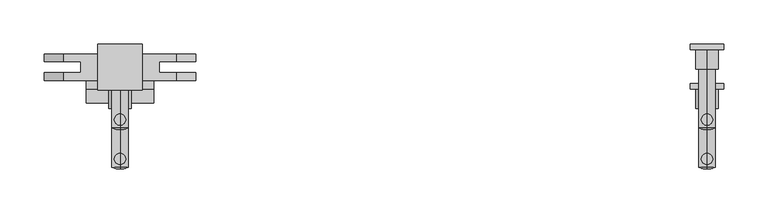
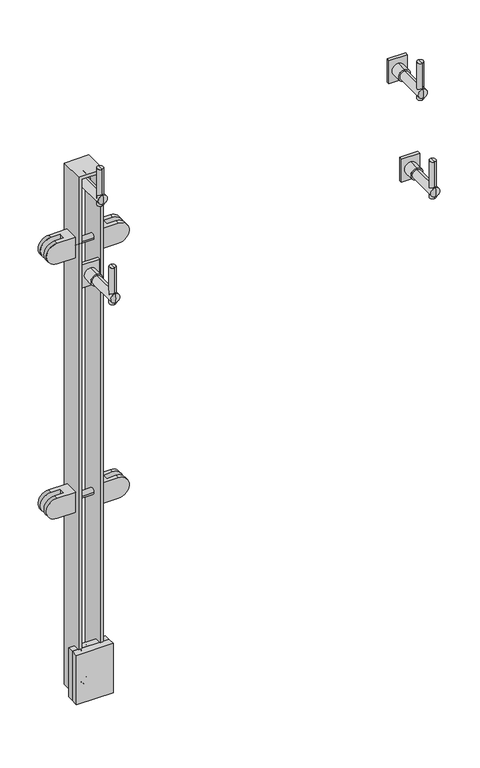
"""IFC4 building model written with IfcOpenShell, lengths in millimetres: proxy geometry, LIVERS_ICN - Glass Panel : LIVERS_ICN - Glass Panel."""

from ifc_helpers import new_model, si_unit, point, frame, origin, place, context, project, spatial, polyline, circle_curve, ellipse_curve, trimmed, outline, extrude, faceted_brep, source, transform, mapped, element, save
from ifc_brep_helpers import plane_surface, cylinder_surface, revolved_surface, advanced_brep


def building_element_proxy_f1ad55b6(model_context):
    return source(origin(), model_context, "Body", "SolidModel", [
        advanced_brep(
        [(258.8575154, 60.3249609, 991.2180522), (258.8575154, 60.3249609, 978.5180522), (258.8575154, 60.3249609, 965.8180522), (258.8575154, 38.0999609, 991.2180522), (258.8575154, 38.0999609, 965.8180522), (258.8575154, 38.0999609, 978.5180522)],
        [
            (0, 1),
            (1, 2),
            (2, 0, circle_curve(frame((258.8575154, 60.3249609, 978.5180522), z_axis=(0.0, 1.0, 0.0), x_axis=(0.0, 0.0, -1.0)), 12.7)),
            (0, 2, circle_curve(frame((258.8575154, 60.3249609, 978.5180522), z_axis=(0.0, 1.0, 0.0), x_axis=(0.0, 0.0, -1.0)), 12.7)),
            (3, 0),
            (2, 4),
            (4, 3, circle_curve(frame((258.8575154, 38.0999609, 978.5180522), z_axis=(0.0, 1.0, 0.0), x_axis=(0.0, 0.0, -1.0)), 12.7)),
            (3, 4, circle_curve(frame((258.8575154, 38.0999609, 978.5180522), z_axis=(0.0, 1.0, 0.0), x_axis=(0.0, 0.0, -1.0)), 12.7)),
            (5, 3),
            (4, 5),
        ],
        [
            plane_surface(frame((258.8575154, 60.3249609, 978.5180522), z_axis=(0.0, 1.0, 0.0), x_axis=(0.0, 0.0, -1.0))),
            cylinder_surface(frame((258.8575154, 69.3828283, 978.5180522), z_axis=(0.0, -1.0, 0.0), x_axis=(0.0, 0.0, -1.0)), 12.7),
            plane_surface(frame((258.8575154, 38.0999609, 978.5180522), z_axis=(0.0, -1.0, 0.0), x_axis=(0.0, 0.0, -1.0))),
        ],
        [
            (0, [[1, 2, 3]]),
            (0, [[-2, -1, 4]]),
            (1, [[5, -3, 6, 7]]),
            (1, [[-6, -4, -5, 8]]),
            (2, [[9, -7, 10]]),
            (2, [[-10, -8, -9]]),
        ],
    ),
        advanced_brep(
        [(258.8575154, -25.4004131, 1043.1838845), (258.8575154, -19.0504161, 1043.1838845), (258.8575154, -12.7004191, 1043.1838845), (258.8575154, -25.4004131, 962.7878163), (258.8575154, -12.7004191, 962.7878163), (258.8575154, -19.0504161, 962.7878163)],
        [
            (0, 1),
            (1, 2),
            (2, 0, circle_curve(frame((258.8575154, -19.0504161, 1043.1838845), z_axis=(0.0, 0.0, 1.0), x_axis=(0.0, 1.0, 0.0)), 6.349997)),
            (0, 2, circle_curve(frame((258.8575154, -19.0504161, 1043.1838845), z_axis=(0.0, 0.0, 1.0), x_axis=(0.0, 1.0, 0.0)), 6.349997)),
            (3, 0),
            (2, 4),
            (4, 3, circle_curve(frame((258.8575154, -19.0504161, 962.7878163), z_axis=(0.0, 0.0, 1.0), x_axis=(0.0, 1.0, 0.0)), 6.349997)),
            (3, 4, circle_curve(frame((258.8575154, -19.0504161, 962.7878163), z_axis=(0.0, 0.0, 1.0), x_axis=(0.0, 1.0, 0.0)), 6.349997)),
            (5, 3),
            (4, 5),
        ],
        [
            plane_surface(frame((258.8575154, -19.0504161, 1043.1838845), z_axis=(0.0, 0.0, 1.0), x_axis=(0.0, 1.0, 0.0))),
            cylinder_surface(frame((258.8575154, -19.0504161, 1057.0348914), z_axis=(0.0, 0.0, -1.0), x_axis=(0.0, 1.0, 0.0)), 6.349997),
            plane_surface(frame((258.8575154, -19.0504161, 962.7878163), z_axis=(0.0, 0.0, -1.0), x_axis=(0.0, 1.0, 0.0))),
        ],
        [
            (0, [[1, 2, 3]]),
            (0, [[-2, -1, 4]]),
            (1, [[5, -3, 6, 7]]),
            (1, [[-6, -4, -5, 8]]),
            (2, [[9, -7, 10]]),
            (2, [[-10, -8, -9]]),
        ],
    ),
        advanced_brep(
        [(258.8575154, -30.1375464, 978.5180522), (258.8575154, -28.5500464, 988.0430522), (258.8575154, -28.5500464, 968.9930522), (258.8575154, 38.0999609, 988.0430522), (258.8575154, 38.0999609, 978.5180522), (258.8575154, 38.0999609, 968.9930522)],
        [
            (0, 1, circle_curve(frame((258.8575154, -0.7687964, 978.5180522), z_axis=(-1.0, 0.0, 0.0), x_axis=(0.0, 1.0, 0.0)), 29.36875)),
            (1, 2, circle_curve(frame((258.8575154, -28.5500464, 978.5180522), z_axis=(0.0, -1.0, 0.0), x_axis=(0.0, 0.0, -1.0)), 9.525)),
            (2, 0, circle_curve(frame((258.8575154, -0.7687964, 978.5180522), z_axis=(-1.0, 0.0, 0.0), x_axis=(0.0, 1.0, 0.0)), 29.36875)),
            (2, 1, circle_curve(frame((258.8575154, -28.5500464, 978.5180522), z_axis=(0.0, -1.0, 0.0), x_axis=(0.0, 0.0, -1.0)), 9.525)),
            (3, 4),
            (4, 5),
            (5, 3, circle_curve(frame((258.8575154, 38.0999609, 978.5180522), z_axis=(0.0, 1.0, 0.0), x_axis=(0.0, 0.0, -1.0)), 9.525)),
            (3, 5, circle_curve(frame((258.8575154, 38.0999609, 978.5180522), z_axis=(0.0, 1.0, 0.0), x_axis=(0.0, 0.0, -1.0)), 9.525)),
            (1, 3),
            (5, 2),
        ],
        [
            revolved_surface(trimmed(ellipse_curve(frame((258.8575154, -0.7687964, 978.5180522), z_axis=(-1.0, 0.0, 0.0), x_axis=(0.0, 1.0, 0.0)), 29.36875, 29.36875), [point((258.8575154, -28.5500464, 968.9930522))], [point((258.8575154, -30.1375464, 978.5180522))], True, "CARTESIAN"), (258.8575154, 30.3031204, 978.5180522), (0.0, -1.0, 0.0)),
            plane_surface(frame((258.8575154, 38.0999609, 978.5180522), z_axis=(0.0, 1.0, 0.0), x_axis=(0.0, 0.0, -1.0))),
            cylinder_surface(frame((258.8575154, 30.3031204, 978.5180522), z_axis=(0.0, -1.0, 0.0), x_axis=(0.0, 0.0, -1.0)), 9.525),
        ],
        [
            (0, [[1, 2, 3]]),
            (0, [[-3, 4, -1]]),
            (1, [[5, 6, 7]]),
            (1, [[-6, -5, 8]]),
            (2, [[9, -7, 10, -2]]),
            (2, [[-10, -8, -9, -4]]),
        ],
    ),
        extrude(outline(polyline([(277.9075154, 66.6749609), (277.9075154, 60.3249609), (239.8075154, 60.3249609), (239.8075154, 66.6749609), (277.9075154, 66.6749609)])), frame((0.0, 0.0, 953.1180522), z_axis=(0.0, 0.0, 1.0), x_axis=(1.0, 0.0, 0.0)), (0.0, 0.0, 1.0), 50.8),
        advanced_brep(
        [(922.9541718, 60.3249609, 991.2180522), (922.9541718, 60.3249609, 978.5180522), (922.9541718, 60.3249609, 965.8180522), (922.9541718, 38.0999609, 991.2180522), (922.9541718, 38.0999609, 965.8180522), (922.9541718, 38.0999609, 978.5180522)],
        [
            (0, 1),
            (1, 2),
            (2, 0, circle_curve(frame((922.9541718, 60.3249609, 978.5180522), z_axis=(0.0, 1.0, 0.0), x_axis=(0.0, 0.0, -1.0)), 12.7)),
            (0, 2, circle_curve(frame((922.9541718, 60.3249609, 978.5180522), z_axis=(0.0, 1.0, 0.0), x_axis=(0.0, 0.0, -1.0)), 12.7)),
            (3, 0),
            (2, 4),
            (4, 3, circle_curve(frame((922.9541718, 38.0999609, 978.5180522), z_axis=(0.0, 1.0, 0.0), x_axis=(0.0, 0.0, -1.0)), 12.7)),
            (3, 4, circle_curve(frame((922.9541718, 38.0999609, 978.5180522), z_axis=(0.0, 1.0, 0.0), x_axis=(0.0, 0.0, -1.0)), 12.7)),
            (5, 3),
            (4, 5),
        ],
        [
            plane_surface(frame((922.9541718, 60.3249609, 978.5180522), z_axis=(0.0, 1.0, 0.0), x_axis=(0.0, 0.0, -1.0))),
            cylinder_surface(frame((922.9541718, 69.3828283, 978.5180522), z_axis=(0.0, -1.0, 0.0), x_axis=(0.0, 0.0, -1.0)), 12.7),
            plane_surface(frame((922.9541718, 38.0999609, 978.5180522), z_axis=(0.0, -1.0, 0.0), x_axis=(0.0, 0.0, -1.0))),
        ],
        [
            (0, [[1, 2, 3]]),
            (0, [[-2, -1, 4]]),
            (1, [[5, -3, 6, 7]]),
            (1, [[-6, -4, -5, 8]]),
            (2, [[9, -7, 10]]),
            (2, [[-10, -8, -9]]),
        ],
    ),
        advanced_brep(
        [(922.9541718, -25.4004131, 1043.1838845), (922.9541718, -19.0504161, 1043.1838845), (922.9541718, -12.7004191, 1043.1838845), (922.9541718, -25.4004131, 962.7878163), (922.9541718, -12.7004191, 962.7878163), (922.9541718, -19.0504161, 962.7878163)],
        [
            (0, 1),
            (1, 2),
            (2, 0, circle_curve(frame((922.9541718, -19.0504161, 1043.1838845), z_axis=(0.0, 0.0, 1.0), x_axis=(0.0, 1.0, 0.0)), 6.349997)),
            (0, 2, circle_curve(frame((922.9541718, -19.0504161, 1043.1838845), z_axis=(0.0, 0.0, 1.0), x_axis=(0.0, 1.0, 0.0)), 6.349997)),
            (3, 0),
            (2, 4),
            (4, 3, circle_curve(frame((922.9541718, -19.0504161, 962.7878163), z_axis=(0.0, 0.0, 1.0), x_axis=(0.0, 1.0, 0.0)), 6.349997)),
            (3, 4, circle_curve(frame((922.9541718, -19.0504161, 962.7878163), z_axis=(0.0, 0.0, 1.0), x_axis=(0.0, 1.0, 0.0)), 6.349997)),
            (5, 3),
            (4, 5),
        ],
        [
            plane_surface(frame((922.9541718, -19.0504161, 1043.1838845), z_axis=(0.0, 0.0, 1.0), x_axis=(0.0, 1.0, 0.0))),
            cylinder_surface(frame((922.9541718, -19.0504161, 1057.0348914), z_axis=(0.0, 0.0, -1.0), x_axis=(0.0, 1.0, 0.0)), 6.349997),
            plane_surface(frame((922.9541718, -19.0504161, 962.7878163), z_axis=(0.0, 0.0, -1.0), x_axis=(0.0, 1.0, 0.0))),
        ],
        [
            (0, [[1, 2, 3]]),
            (0, [[-2, -1, 4]]),
            (1, [[5, -3, 6, 7]]),
            (1, [[-6, -4, -5, 8]]),
            (2, [[9, -7, 10]]),
            (2, [[-10, -8, -9]]),
        ],
    ),
        advanced_brep(
        [(922.9541718, -30.1375464, 978.5180522), (922.9541718, -28.5500464, 988.0430522), (922.9541718, -28.5500464, 968.9930522), (922.9541718, 38.0999609, 988.0430522), (922.9541718, 38.0999609, 978.5180522), (922.9541718, 38.0999609, 968.9930522)],
        [
            (0, 1, circle_curve(frame((922.9541718, -0.7687964, 978.5180522), z_axis=(-1.0, 0.0, 0.0), x_axis=(0.0, 1.0, 0.0)), 29.36875)),
            (1, 2, circle_curve(frame((922.9541718, -28.5500464, 978.5180522), z_axis=(0.0, -1.0, 0.0), x_axis=(0.0, 0.0, -1.0)), 9.525)),
            (2, 0, circle_curve(frame((922.9541718, -0.7687964, 978.5180522), z_axis=(-1.0, 0.0, 0.0), x_axis=(0.0, 1.0, 0.0)), 29.36875)),
            (2, 1, circle_curve(frame((922.9541718, -28.5500464, 978.5180522), z_axis=(0.0, -1.0, 0.0), x_axis=(0.0, 0.0, -1.0)), 9.525)),
            (3, 4),
            (4, 5),
            (5, 3, circle_curve(frame((922.9541718, 38.0999609, 978.5180522), z_axis=(0.0, 1.0, 0.0), x_axis=(0.0, 0.0, -1.0)), 9.525)),
            (3, 5, circle_curve(frame((922.9541718, 38.0999609, 978.5180522), z_axis=(0.0, 1.0, 0.0), x_axis=(0.0, 0.0, -1.0)), 9.525)),
            (1, 3),
            (5, 2),
        ],
        [
            revolved_surface(trimmed(ellipse_curve(frame((922.9541718, -0.7687964, 978.5180522), z_axis=(-1.0, 0.0, 0.0), x_axis=(0.0, 1.0, 0.0)), 29.36875, 29.36875), [point((922.9541718, -28.5500464, 968.9930522))], [point((922.9541718, -30.1375464, 978.5180522))], True, "CARTESIAN"), (922.9541718, 30.3031204, 978.5180522), (0.0, -1.0, 0.0)),
            plane_surface(frame((922.9541718, 38.0999609, 978.5180522), z_axis=(0.0, 1.0, 0.0), x_axis=(0.0, 0.0, -1.0))),
            cylinder_surface(frame((922.9541718, 30.3031204, 978.5180522), z_axis=(0.0, -1.0, 0.0), x_axis=(0.0, 0.0, -1.0)), 9.525),
        ],
        [
            (0, [[1, 2, 3]]),
            (0, [[-3, 4, -1]]),
            (1, [[5, 6, 7]]),
            (1, [[-6, -5, 8]]),
            (2, [[9, -7, 10, -2]]),
            (2, [[-10, -8, -9, -4]]),
        ],
    ),
        extrude(outline(polyline([(942.0041718, 66.6749609), (942.0041718, 60.3249609), (903.9041718, 60.3249609), (903.9041718, 66.6749609), (942.0041718, 66.6749609)])), frame((0.0, 0.0, 953.1180522), z_axis=(0.0, 0.0, 1.0), x_axis=(1.0, 0.0, 0.0)), (0.0, 0.0, 1.0), 50.8),
        advanced_brep(
        [(258.8575154, 15.875, 802.0090959), (258.8575154, 15.875, 789.3090959), (258.8575154, 15.875, 776.6090959), (258.8575154, -6.35, 802.0090959), (258.8575154, -6.35, 776.6090959), (258.8575154, -6.35, 789.3090959)],
        [
            (0, 1),
            (1, 2),
            (2, 0, circle_curve(frame((258.8575154, 15.875, 789.3090959), z_axis=(0.0, 1.0, 0.0), x_axis=(0.0, 0.0, -1.0)), 12.7)),
            (0, 2, circle_curve(frame((258.8575154, 15.875, 789.3090959), z_axis=(0.0, 1.0, 0.0), x_axis=(0.0, 0.0, -1.0)), 12.7)),
            (3, 0),
            (2, 4),
            (4, 3, circle_curve(frame((258.8575154, -6.35, 789.3090959), z_axis=(0.0, 1.0, 0.0), x_axis=(0.0, 0.0, -1.0)), 12.7)),
            (3, 4, circle_curve(frame((258.8575154, -6.35, 789.3090959), z_axis=(0.0, 1.0, 0.0), x_axis=(0.0, 0.0, -1.0)), 12.7)),
            (5, 3),
            (4, 5),
        ],
        [
            plane_surface(frame((258.8575154, 15.875, 789.3090959), z_axis=(0.0, 1.0, 0.0), x_axis=(0.0, 0.0, -1.0))),
            cylinder_surface(frame((258.8575154, 24.9328674, 789.3090959), z_axis=(0.0, -1.0, 0.0), x_axis=(0.0, 0.0, -1.0)), 12.7),
            plane_surface(frame((258.8575154, -6.35, 789.3090959), z_axis=(0.0, -1.0, 0.0), x_axis=(0.0, 0.0, -1.0))),
        ],
        [
            (0, [[1, 2, 3]]),
            (0, [[-2, -1, 4]]),
            (1, [[5, -3, 6, 7]]),
            (1, [[-6, -4, -5, 8]]),
            (2, [[9, -7, 10]]),
            (2, [[-10, -8, -9]]),
        ],
    ),
        advanced_brep(
        [(258.8575154, -69.850374, 853.9749282), (258.8575154, -63.500377, 853.9749282), (258.8575154, -57.15038, 853.9749282), (258.8575154, -69.850374, 773.57886), (258.8575154, -57.15038, 773.57886), (258.8575154, -63.500377, 773.57886)],
        [
            (0, 1),
            (1, 2),
            (2, 0, circle_curve(frame((258.8575154, -63.500377, 853.9749282), z_axis=(0.0, 0.0, 1.0), x_axis=(0.0, 1.0, 0.0)), 6.349997)),
            (0, 2, circle_curve(frame((258.8575154, -63.500377, 853.9749282), z_axis=(0.0, 0.0, 1.0), x_axis=(0.0, 1.0, 0.0)), 6.349997)),
            (3, 0),
            (2, 4),
            (4, 3, circle_curve(frame((258.8575154, -63.500377, 773.57886), z_axis=(0.0, 0.0, 1.0), x_axis=(0.0, 1.0, 0.0)), 6.349997)),
            (3, 4, circle_curve(frame((258.8575154, -63.500377, 773.57886), z_axis=(0.0, 0.0, 1.0), x_axis=(0.0, 1.0, 0.0)), 6.349997)),
            (5, 3),
            (4, 5),
        ],
        [
            plane_surface(frame((258.8575154, -63.500377, 853.9749282), z_axis=(0.0, 0.0, 1.0), x_axis=(0.0, 1.0, 0.0))),
            cylinder_surface(frame((258.8575154, -63.500377, 867.8259351), z_axis=(0.0, 0.0, -1.0), x_axis=(0.0, 1.0, 0.0)), 6.349997),
            plane_surface(frame((258.8575154, -63.500377, 773.57886), z_axis=(0.0, 0.0, -1.0), x_axis=(0.0, 1.0, 0.0))),
        ],
        [
            (0, [[1, 2, 3]]),
            (0, [[-2, -1, 4]]),
            (1, [[5, -3, 6, 7]]),
            (1, [[-6, -4, -5, 8]]),
            (2, [[9, -7, 10]]),
            (2, [[-10, -8, -9]]),
        ],
    ),
        advanced_brep(
        [(258.8575154, -74.5875073, 789.3090959), (258.8575154, -73.0000073, 798.8340959), (258.8575154, -73.0000073, 779.7840959), (258.8575154, -6.35, 798.8340959), (258.8575154, -6.35, 789.3090959), (258.8575154, -6.35, 779.7840959)],
        [
            (0, 1, circle_curve(frame((258.8575154, -45.2187573, 789.3090959), z_axis=(-1.0, 0.0, 0.0), x_axis=(0.0, 1.0, 0.0)), 29.36875)),
            (1, 2, circle_curve(frame((258.8575154, -73.0000073, 789.3090959), z_axis=(0.0, -1.0, 0.0), x_axis=(0.0, 0.0, -1.0)), 9.525)),
            (2, 0, circle_curve(frame((258.8575154, -45.2187573, 789.3090959), z_axis=(-1.0, 0.0, 0.0), x_axis=(0.0, 1.0, 0.0)), 29.36875)),
            (2, 1, circle_curve(frame((258.8575154, -73.0000073, 789.3090959), z_axis=(0.0, -1.0, 0.0), x_axis=(0.0, 0.0, -1.0)), 9.525)),
            (3, 4),
            (4, 5),
            (5, 3, circle_curve(frame((258.8575154, -6.35, 789.3090959), z_axis=(0.0, 1.0, 0.0), x_axis=(0.0, 0.0, -1.0)), 9.525)),
            (3, 5, circle_curve(frame((258.8575154, -6.35, 789.3090959), z_axis=(0.0, 1.0, 0.0), x_axis=(0.0, 0.0, -1.0)), 9.525)),
            (1, 3),
            (5, 2),
        ],
        [
            revolved_surface(trimmed(ellipse_curve(frame((258.8575154, -45.2187573, 789.3090959), z_axis=(-1.0, 0.0, 0.0), x_axis=(0.0, 1.0, 0.0)), 29.36875, 29.36875), [point((258.8575154, -73.0000073, 779.7840959))], [point((258.8575154, -74.5875073, 789.3090959))], True, "CARTESIAN"), (258.8575154, -14.1468405, 789.3090959), (0.0, -1.0, 0.0)),
            plane_surface(frame((258.8575154, -6.35, 789.3090959), z_axis=(0.0, 1.0, 0.0), x_axis=(0.0, 0.0, -1.0))),
            cylinder_surface(frame((258.8575154, -14.1468405, 789.3090959), z_axis=(0.0, -1.0, 0.0), x_axis=(0.0, 0.0, -1.0)), 9.525),
        ],
        [
            (0, [[1, 2, 3]]),
            (0, [[-3, 4, -1]]),
            (1, [[5, 6, 7]]),
            (1, [[-6, -5, 8]]),
            (2, [[9, -7, 10, -2]]),
            (2, [[-10, -8, -9, -4]]),
        ],
    ),
        extrude(outline(polyline([(277.9075154, 22.225), (277.9075154, 15.875), (239.8075154, 15.875), (239.8075154, 22.225), (277.9075154, 22.225)])), frame((0.0, 0.0, 763.9090959), z_axis=(0.0, 0.0, 1.0), x_axis=(1.0, 0.0, 0.0)), (0.0, 0.0, 1.0), 50.8),
        advanced_brep(
        [(922.9541718, 15.875, 802.0090959), (922.9541718, 15.875, 789.3090959), (922.9541718, 15.875, 776.6090959), (922.9541718, -6.35, 802.0090959), (922.9541718, -6.35, 776.6090959), (922.9541718, -6.35, 789.3090959)],
        [
            (0, 1),
            (1, 2),
            (2, 0, circle_curve(frame((922.9541718, 15.875, 789.3090959), z_axis=(0.0, 1.0, 0.0), x_axis=(0.0, 0.0, -1.0)), 12.7)),
            (0, 2, circle_curve(frame((922.9541718, 15.875, 789.3090959), z_axis=(0.0, 1.0, 0.0), x_axis=(0.0, 0.0, -1.0)), 12.7)),
            (3, 0),
            (2, 4),
            (4, 3, circle_curve(frame((922.9541718, -6.35, 789.3090959), z_axis=(0.0, 1.0, 0.0), x_axis=(0.0, 0.0, -1.0)), 12.7)),
            (3, 4, circle_curve(frame((922.9541718, -6.35, 789.3090959), z_axis=(0.0, 1.0, 0.0), x_axis=(0.0, 0.0, -1.0)), 12.7)),
            (5, 3),
            (4, 5),
        ],
        [
            plane_surface(frame((922.9541718, 15.875, 789.3090959), z_axis=(0.0, 1.0, 0.0), x_axis=(0.0, 0.0, -1.0))),
            cylinder_surface(frame((922.9541718, 24.9328674, 789.3090959), z_axis=(0.0, -1.0, 0.0), x_axis=(0.0, 0.0, -1.0)), 12.7),
            plane_surface(frame((922.9541718, -6.35, 789.3090959), z_axis=(0.0, -1.0, 0.0), x_axis=(0.0, 0.0, -1.0))),
        ],
        [
            (0, [[1, 2, 3]]),
            (0, [[-2, -1, 4]]),
            (1, [[5, -3, 6, 7]]),
            (1, [[-6, -4, -5, 8]]),
            (2, [[9, -7, 10]]),
            (2, [[-10, -8, -9]]),
        ],
    ),
        advanced_brep(
        [(922.9541718, -69.850374, 853.9749282), (922.9541718, -63.500377, 853.9749282), (922.9541718, -57.15038, 853.9749282), (922.9541718, -69.850374, 773.57886), (922.9541718, -57.15038, 773.57886), (922.9541718, -63.500377, 773.57886)],
        [
            (0, 1),
            (1, 2),
            (2, 0, circle_curve(frame((922.9541718, -63.500377, 853.9749282), z_axis=(0.0, 0.0, 1.0), x_axis=(0.0, 1.0, 0.0)), 6.349997)),
            (0, 2, circle_curve(frame((922.9541718, -63.500377, 853.9749282), z_axis=(0.0, 0.0, 1.0), x_axis=(0.0, 1.0, 0.0)), 6.349997)),
            (3, 0),
            (2, 4),
            (4, 3, circle_curve(frame((922.9541718, -63.500377, 773.57886), z_axis=(0.0, 0.0, 1.0), x_axis=(0.0, 1.0, 0.0)), 6.349997)),
            (3, 4, circle_curve(frame((922.9541718, -63.500377, 773.57886), z_axis=(0.0, 0.0, 1.0), x_axis=(0.0, 1.0, 0.0)), 6.349997)),
            (5, 3),
            (4, 5),
        ],
        [
            plane_surface(frame((922.9541718, -63.500377, 853.9749282), z_axis=(0.0, 0.0, 1.0), x_axis=(0.0, 1.0, 0.0))),
            cylinder_surface(frame((922.9541718, -63.500377, 867.8259351), z_axis=(0.0, 0.0, -1.0), x_axis=(0.0, 1.0, 0.0)), 6.349997),
            plane_surface(frame((922.9541718, -63.500377, 773.57886), z_axis=(0.0, 0.0, -1.0), x_axis=(0.0, 1.0, 0.0))),
        ],
        [
            (0, [[1, 2, 3]]),
            (0, [[-2, -1, 4]]),
            (1, [[5, -3, 6, 7]]),
            (1, [[-6, -4, -5, 8]]),
            (2, [[9, -7, 10]]),
            (2, [[-10, -8, -9]]),
        ],
    ),
        advanced_brep(
        [(922.9541718, -74.5875073, 789.3090959), (922.9541718, -73.0000073, 798.8340959), (922.9541718, -73.0000073, 779.7840959), (922.9541718, -6.35, 798.8340959), (922.9541718, -6.35, 789.3090959), (922.9541718, -6.35, 779.7840959)],
        [
            (0, 1, circle_curve(frame((922.9541718, -45.2187573, 789.3090959), z_axis=(-1.0, 0.0, 0.0), x_axis=(0.0, 1.0, 0.0)), 29.36875)),
            (1, 2, circle_curve(frame((922.9541718, -73.0000073, 789.3090959), z_axis=(0.0, -1.0, 0.0), x_axis=(0.0, 0.0, -1.0)), 9.525)),
            (2, 0, circle_curve(frame((922.9541718, -45.2187573, 789.3090959), z_axis=(-1.0, 0.0, 0.0), x_axis=(0.0, 1.0, 0.0)), 29.36875)),
            (2, 1, circle_curve(frame((922.9541718, -73.0000073, 789.3090959), z_axis=(0.0, -1.0, 0.0), x_axis=(0.0, 0.0, -1.0)), 9.525)),
            (3, 4),
            (4, 5),
            (5, 3, circle_curve(frame((922.9541718, -6.35, 789.3090959), z_axis=(0.0, 1.0, 0.0), x_axis=(0.0, 0.0, -1.0)), 9.525)),
            (3, 5, circle_curve(frame((922.9541718, -6.35, 789.3090959), z_axis=(0.0, 1.0, 0.0), x_axis=(0.0, 0.0, -1.0)), 9.525)),
            (1, 3),
            (5, 2),
        ],
        [
            revolved_surface(trimmed(ellipse_curve(frame((922.9541718, -45.2187573, 789.3090959), z_axis=(-1.0, 0.0, 0.0), x_axis=(0.0, 1.0, 0.0)), 29.36875, 29.36875), [point((922.9541718, -73.0000073, 779.7840959))], [point((922.9541718, -74.5875073, 789.3090959))], True, "CARTESIAN"), (922.9541718, -14.1468405, 789.3090959), (0.0, -1.0, 0.0)),
            plane_surface(frame((922.9541718, -6.35, 789.3090959), z_axis=(0.0, 1.0, 0.0), x_axis=(0.0, 0.0, -1.0))),
            cylinder_surface(frame((922.9541718, -14.1468405, 789.3090959), z_axis=(0.0, -1.0, 0.0), x_axis=(0.0, 0.0, -1.0)), 9.525),
        ],
        [
            (0, [[1, 2, 3]]),
            (0, [[-3, 4, -1]]),
            (1, [[5, 6, 7]]),
            (1, [[-6, -5, 8]]),
            (2, [[9, -7, 10, -2]]),
            (2, [[-10, -8, -9, -4]]),
        ],
    ),
        extrude(outline(polyline([(942.0041718, 22.225), (942.0041718, 15.875), (903.9041718, 15.875), (903.9041718, 22.225), (942.0041718, 22.225)])), frame((0.0, 0.0, 763.9090959), z_axis=(0.0, 0.0, 1.0), x_axis=(1.0, 0.0, 0.0)), (0.0, 0.0, 1.0), 50.8),
        advanced_brep(
        [(233.4575154, 55.5624457, 313.5369168), (233.4575154, 25.3999457, 313.5369168), (233.4575154, 25.3999457, 269.0869168), (233.4575154, 55.5624457, 269.0869168), (195.2564214, 55.5624457, 269.0869168), (195.2564214, 55.5624457, 313.5369168), (195.2564214, 25.3999457, 269.0869168), (195.2564214, 34.1311957, 269.0869168), (214.5855962, 34.1311957, 269.0869168), (214.5855962, 46.8311957, 269.0869168), (195.2564214, 46.8311957, 269.0869168), (195.2564214, 25.3999457, 313.5369168), (195.2564214, 46.8311957, 313.5369168), (214.5855962, 46.8311957, 313.5369168), (214.5855962, 34.1311957, 313.5369168), (195.2564214, 34.1311957, 313.5369168)],
        [
            (0, 1),
            (1, 2),
            (2, 3),
            (3, 0),
            (3, 4),
            (4, 5, circle_curve(frame((195.2564214, 55.5624457, 291.3119168), z_axis=(0.0, 1.0, 0.0), x_axis=(0.0, 0.0, -1.0)), 22.225)),
            (5, 0),
            (2, 6),
            (6, 7),
            (7, 8),
            (8, 9),
            (9, 10),
            (10, 4),
            (1, 11),
            (11, 6, circle_curve(frame((195.2564214, 25.3999457, 291.3119168), z_axis=(0.0, -1.0, 0.0), x_axis=(0.0, 0.0, -1.0)), 22.225)),
            (5, 12),
            (12, 13),
            (13, 14),
            (14, 15),
            (15, 11),
            (13, 9),
            (8, 14),
            (12, 10, circle_curve(frame((195.2564214, 46.8311957, 291.3119168), z_axis=(0.0, -1.0, 0.0), x_axis=(0.0, 0.0, -1.0)), 22.225)),
            (7, 15, circle_curve(frame((195.2564214, 34.1311957, 291.3119168), z_axis=(0.0, 1.0, 0.0), x_axis=(0.0, 0.0, -1.0)), 22.225)),
        ],
        [
            plane_surface(frame((233.4575154, 55.5624457, 269.0869168), z_axis=(1.0, 0.0, 0.0), x_axis=(0.0, 0.0, 1.0))),
            plane_surface(frame((172.9544346, 55.5624457, 313.5369168), z_axis=(0.0, 1.0, 0.0), x_axis=(1.0, 0.0, 0.0))),
            plane_surface(frame((172.9544346, 55.5624457, 269.0869168), z_axis=(0.0, 0.0, -1.0), x_axis=(1.0, 0.0, 0.0))),
            plane_surface(frame((172.9544346, 25.3999457, 269.0869168), z_axis=(0.0, -1.0, 0.0), x_axis=(1.0, 0.0, 0.0))),
            plane_surface(frame((172.9544346, 25.3999457, 313.5369168), z_axis=(0.0, 0.0, 1.0), x_axis=(1.0, 0.0, 0.0))),
            plane_surface(frame((214.5855962, 46.8311957, 269.0869168), z_axis=(-1.0, 0.0, 0.0), x_axis=(0.0, 0.0, 1.0))),
            plane_surface(frame((172.9544346, 46.8311957, 313.5369168), z_axis=(0.0, -1.0, 0.0), x_axis=(1.0, 0.0, 0.0))),
            plane_surface(frame((172.9544346, 34.1311957, 269.0869168), z_axis=(0.0, 1.0, 0.0), x_axis=(1.0, 0.0, 0.0))),
            cylinder_surface(frame((195.2564214, 55.5624457, 291.3119168), z_axis=(0.0, 1.0, 0.0), x_axis=(0.0, 0.0, -1.0)), 22.225),
        ],
        [
            (0, [[1, 2, 3, 4]]),
            (1, [[-4, 5, 6, 7]]),
            (2, [[-3, 8, 9, 10, 11, 12, 13, -5]]),
            (3, [[-2, 14, 15, -8]]),
            (4, [[-1, -7, 16, 17, 18, 19, 20, -14]]),
            (5, [[21, -11, 22, -18]]),
            (6, [[-21, -17, 23, -12]]),
            (7, [[-22, -10, 24, -19]]),
            (8, [[-6, -13, -23, -16]]),
            (8, [[-9, -15, -20, -24]]),
        ],
    ),
        advanced_brep(
        [(284.2575154, 55.5624457, 313.5369168), (284.2575154, 55.5624457, 269.0869168), (284.2575154, 25.3999457, 269.0869168), (284.2575154, 25.3999457, 313.5369168), (322.4586094, 55.5624457, 313.5369168), (322.4586094, 55.5624457, 269.0869168), (322.4586094, 46.8311957, 269.0869168), (303.1294346, 46.8311957, 269.0869168), (303.1294346, 34.1311957, 269.0869168), (322.4586094, 34.1311957, 269.0869168), (322.4586094, 25.3999457, 269.0869168), (322.4586094, 25.3999457, 313.5369168), (322.4586094, 34.1311957, 313.5369168), (303.1294346, 34.1311957, 313.5369168), (303.1294346, 46.8311957, 313.5369168), (322.4586094, 46.8311957, 313.5369168)],
        [
            (0, 1),
            (1, 2),
            (2, 3),
            (3, 0),
            (0, 4),
            (4, 5, circle_curve(frame((322.4586094, 55.5624457, 291.3119168), z_axis=(0.0, 1.0, 0.0), x_axis=(0.0, 0.0, -1.0)), 22.225)),
            (5, 1),
            (5, 6),
            (6, 7),
            (7, 8),
            (8, 9),
            (9, 10),
            (10, 2),
            (10, 11, circle_curve(frame((322.4586094, 25.3999457, 291.3119168), z_axis=(0.0, -1.0, 0.0), x_axis=(0.0, 0.0, -1.0)), 22.225)),
            (11, 3),
            (11, 12),
            (12, 13),
            (13, 14),
            (14, 15),
            (15, 4),
            (13, 8),
            (7, 14),
            (6, 15, circle_curve(frame((322.4586094, 46.8311957, 291.3119168), z_axis=(0.0, -1.0, 0.0), x_axis=(0.0, 0.0, -1.0)), 22.225)),
            (12, 9, circle_curve(frame((322.4586094, 34.1311957, 291.3119168), z_axis=(0.0, 1.0, 0.0), x_axis=(0.0, 0.0, -1.0)), 22.225)),
        ],
        [
            plane_surface(frame((284.2575154, 55.5624457, 269.0869168), z_axis=(-1.0, 0.0, 0.0), x_axis=(0.0, 0.0, 1.0))),
            plane_surface(frame((344.7605962, 55.5624457, 313.5369168), z_axis=(0.0, 1.0, 0.0), x_axis=(-1.0, 0.0, 0.0))),
            plane_surface(frame((344.7605962, 55.5624457, 269.0869168), z_axis=(0.0, 0.0, -1.0), x_axis=(-1.0, 0.0, 0.0))),
            plane_surface(frame((344.7605962, 25.3999457, 269.0869168), z_axis=(0.0, -1.0, 0.0), x_axis=(-1.0, 0.0, 0.0))),
            plane_surface(frame((344.7605962, 25.3999457, 313.5369168), z_axis=(0.0, 0.0, 1.0), x_axis=(-1.0, 0.0, 0.0))),
            plane_surface(frame((303.1294346, 46.8311957, 269.0869168), z_axis=(1.0, 0.0, 0.0), x_axis=(0.0, 0.0, 1.0))),
            plane_surface(frame((344.7605962, 46.8311957, 313.5369168), z_axis=(0.0, -1.0, 0.0), x_axis=(-1.0, 0.0, 0.0))),
            plane_surface(frame((344.7605962, 34.1311957, 269.0869168), z_axis=(0.0, 1.0, 0.0), x_axis=(-1.0, 0.0, 0.0))),
            cylinder_surface(frame((322.4586094, 55.5624457, 291.3119168), z_axis=(0.0, 1.0, 0.0), x_axis=(0.0, 0.0, -1.0)), 22.225),
        ],
        [
            (0, [[1, 2, 3, 4]]),
            (1, [[5, 6, 7, -1]]),
            (2, [[-7, 8, 9, 10, 11, 12, 13, -2]]),
            (3, [[-13, 14, 15, -3]]),
            (4, [[-15, 16, 17, 18, 19, 20, -5, -4]]),
            (5, [[-18, 21, -10, 22]]),
            (6, [[-9, 23, -19, -22]]),
            (7, [[-17, 24, -11, -21]]),
            (8, [[-20, -23, -8, -6]]),
            (8, [[-24, -16, -14, -12]]),
        ],
    ),
        advanced_brep(
        [(233.4575154, 55.5624457, 872.3369168), (233.4575154, 25.3999457, 872.3369168), (233.4575154, 25.3999457, 827.8869168), (233.4575154, 55.5624457, 827.8869168), (195.2564214, 55.5624457, 827.8869168), (195.2564214, 55.5624457, 872.3369168), (195.2564214, 25.3999457, 827.8869168), (195.2564214, 34.1311957, 827.8869168), (214.5855962, 34.1311957, 827.8869168), (214.5855962, 46.8311957, 827.8869168), (195.2564214, 46.8311957, 827.8869168), (195.2564214, 25.3999457, 872.3369168), (195.2564214, 46.8311957, 872.3369168), (214.5855962, 46.8311957, 872.3369168), (214.5855962, 34.1311957, 872.3369168), (195.2564214, 34.1311957, 872.3369168)],
        [
            (0, 1),
            (1, 2),
            (2, 3),
            (3, 0),
            (3, 4),
            (4, 5, circle_curve(frame((195.2564214, 55.5624457, 850.1119168), z_axis=(0.0, 1.0, 0.0), x_axis=(0.0, 0.0, -1.0)), 22.225)),
            (5, 0),
            (2, 6),
            (6, 7),
            (7, 8),
            (8, 9),
            (9, 10),
            (10, 4),
            (1, 11),
            (11, 6, circle_curve(frame((195.2564214, 25.3999457, 850.1119168), z_axis=(0.0, -1.0, 0.0), x_axis=(0.0, 0.0, -1.0)), 22.225)),
            (5, 12),
            (12, 13),
            (13, 14),
            (14, 15),
            (15, 11),
            (13, 9),
            (8, 14),
            (12, 10, circle_curve(frame((195.2564214, 46.8311957, 850.1119168), z_axis=(0.0, -1.0, 0.0), x_axis=(0.0, 0.0, -1.0)), 22.225)),
            (7, 15, circle_curve(frame((195.2564214, 34.1311957, 850.1119168), z_axis=(0.0, 1.0, 0.0), x_axis=(0.0, 0.0, -1.0)), 22.225)),
        ],
        [
            plane_surface(frame((233.4575154, 55.5624457, 827.8869168), z_axis=(1.0, 0.0, 0.0), x_axis=(0.0, 0.0, 1.0))),
            plane_surface(frame((172.9544346, 55.5624457, 872.3369168), z_axis=(0.0, 1.0, 0.0), x_axis=(1.0, 0.0, 0.0))),
            plane_surface(frame((172.9544346, 55.5624457, 827.8869168), z_axis=(0.0, 0.0, -1.0), x_axis=(1.0, 0.0, 0.0))),
            plane_surface(frame((172.9544346, 25.3999457, 827.8869168), z_axis=(0.0, -1.0, 0.0), x_axis=(1.0, 0.0, 0.0))),
            plane_surface(frame((172.9544346, 25.3999457, 872.3369168), z_axis=(0.0, 0.0, 1.0), x_axis=(1.0, 0.0, 0.0))),
            plane_surface(frame((214.5855962, 46.8311957, 827.8869168), z_axis=(-1.0, 0.0, 0.0), x_axis=(0.0, 0.0, 1.0))),
            plane_surface(frame((172.9544346, 46.8311957, 872.3369168), z_axis=(0.0, -1.0, 0.0), x_axis=(1.0, 0.0, 0.0))),
            plane_surface(frame((172.9544346, 34.1311957, 827.8869168), z_axis=(0.0, 1.0, 0.0), x_axis=(1.0, 0.0, 0.0))),
            cylinder_surface(frame((195.2564214, 55.5624457, 850.1119168), z_axis=(0.0, 1.0, 0.0), x_axis=(0.0, 0.0, -1.0)), 22.225),
        ],
        [
            (0, [[1, 2, 3, 4]]),
            (1, [[-4, 5, 6, 7]]),
            (2, [[-3, 8, 9, 10, 11, 12, 13, -5]]),
            (3, [[-2, 14, 15, -8]]),
            (4, [[-1, -7, 16, 17, 18, 19, 20, -14]]),
            (5, [[21, -11, 22, -18]]),
            (6, [[-21, -17, 23, -12]]),
            (7, [[-22, -10, 24, -19]]),
            (8, [[-6, -13, -23, -16]]),
            (8, [[-9, -15, -20, -24]]),
        ],
    ),
        advanced_brep(
        [(284.2575154, 55.5624457, 872.3369168), (284.2575154, 55.5624457, 827.8869168), (284.2575154, 25.3999457, 827.8869168), (284.2575154, 25.3999457, 872.3369168), (322.4586094, 55.5624457, 872.3369168), (322.4586094, 55.5624457, 827.8869168), (322.4586094, 46.8311957, 827.8869168), (303.1294346, 46.8311957, 827.8869168), (303.1294346, 34.1311957, 827.8869168), (322.4586094, 34.1311957, 827.8869168), (322.4586094, 25.3999457, 827.8869168), (322.4586094, 25.3999457, 872.3369168), (322.4586094, 34.1311957, 872.3369168), (303.1294346, 34.1311957, 872.3369168), (303.1294346, 46.8311957, 872.3369168), (322.4586094, 46.8311957, 872.3369168)],
        [
            (0, 1),
            (1, 2),
            (2, 3),
            (3, 0),
            (0, 4),
            (4, 5, circle_curve(frame((322.4586094, 55.5624457, 850.1119168), z_axis=(0.0, 1.0, 0.0), x_axis=(0.0, 0.0, -1.0)), 22.225)),
            (5, 1),
            (5, 6),
            (6, 7),
            (7, 8),
            (8, 9),
            (9, 10),
            (10, 2),
            (10, 11, circle_curve(frame((322.4586094, 25.3999457, 850.1119168), z_axis=(0.0, -1.0, 0.0), x_axis=(0.0, 0.0, -1.0)), 22.225)),
            (11, 3),
            (11, 12),
            (12, 13),
            (13, 14),
            (14, 15),
            (15, 4),
            (13, 8),
            (7, 14),
            (6, 15, circle_curve(frame((322.4586094, 46.8311957, 850.1119168), z_axis=(0.0, -1.0, 0.0), x_axis=(0.0, 0.0, -1.0)), 22.225)),
            (12, 9, circle_curve(frame((322.4586094, 34.1311957, 850.1119168), z_axis=(0.0, 1.0, 0.0), x_axis=(0.0, 0.0, -1.0)), 22.225)),
        ],
        [
            plane_surface(frame((284.2575154, 55.5624457, 827.8869168), z_axis=(-1.0, 0.0, 0.0), x_axis=(0.0, 0.0, 1.0))),
            plane_surface(frame((344.7605962, 55.5624457, 872.3369168), z_axis=(0.0, 1.0, 0.0), x_axis=(-1.0, 0.0, 0.0))),
            plane_surface(frame((344.7605962, 55.5624457, 827.8869168), z_axis=(0.0, 0.0, -1.0), x_axis=(-1.0, 0.0, 0.0))),
            plane_surface(frame((344.7605962, 25.3999457, 827.8869168), z_axis=(0.0, -1.0, 0.0), x_axis=(-1.0, 0.0, 0.0))),
            plane_surface(frame((344.7605962, 25.3999457, 872.3369168), z_axis=(0.0, 0.0, 1.0), x_axis=(-1.0, 0.0, 0.0))),
            plane_surface(frame((303.1294346, 46.8311957, 827.8869168), z_axis=(1.0, 0.0, 0.0), x_axis=(0.0, 0.0, 1.0))),
            plane_surface(frame((344.7605962, 46.8311957, 872.3369168), z_axis=(0.0, -1.0, 0.0), x_axis=(-1.0, 0.0, 0.0))),
            plane_surface(frame((344.7605962, 34.1311957, 827.8869168), z_axis=(0.0, 1.0, 0.0), x_axis=(-1.0, 0.0, 0.0))),
            cylinder_surface(frame((322.4586094, 55.5624457, 850.1119168), z_axis=(0.0, 1.0, 0.0), x_axis=(0.0, 0.0, -1.0)), 22.225),
        ],
        [
            (0, [[1, 2, 3, 4]]),
            (1, [[5, 6, 7, -1]]),
            (2, [[-7, 8, 9, 10, 11, 12, 13, -2]]),
            (3, [[-13, 14, 15, -3]]),
            (4, [[-15, 16, 17, 18, 19, 20, -5, -4]]),
            (5, [[-18, 21, -10, 22]]),
            (6, [[-9, 23, -19, -22]]),
            (7, [[-17, 24, -11, -21]]),
            (8, [[-20, -23, -8, -6]]),
            (8, [[-24, -16, -14, -12]]),
        ],
    ),
        advanced_brep(
        [(258.8575154, 28.575, -125.3541166), (258.8575154, 29.7562407, -125.3541166), (258.8575154, 29.7562407, -103.1291055), (258.8575154, 28.575, -103.1291055), (258.8575154, 28.575, -114.2416111), (258.8575154, 32.325, -119.8541166), (258.8575154, 30.8816229, -114.2416111), (258.8575154, 32.325, -108.6291055), (258.8575154, 34.8740117, -119.8541166), (258.8575154, 34.8740117, -108.6291055), (258.8575154, 33.8500285, -122.802123), (258.8575154, 33.8500285, -105.6810991), (258.8575154, 31.8562692, -124.5603989), (258.8575154, 31.8562692, -103.9228232)],
        [
            (0, 1),
            (1, 2, circle_curve(frame((258.8575154, 29.7562407, -114.2416111), z_axis=(0.0, -1.0, 0.0), x_axis=(0.0, 0.0, 1.0)), 11.1125056)),
            (2, 3),
            (3, 0, circle_curve(frame((258.8575154, 28.575, -114.2416111), z_axis=(0.0, 1.0, 0.0), x_axis=(0.0, 0.0, 1.0)), 11.1125056)),
            (2, 1, circle_curve(frame((258.8575154, 29.7562407, -114.2416111), z_axis=(0.0, -1.0, 0.0), x_axis=(0.0, 0.0, 1.0)), 11.1125056)),
            (0, 3, circle_curve(frame((258.8575154, 28.575, -114.2416111), z_axis=(0.0, 1.0, 0.0), x_axis=(0.0, 0.0, 1.0)), 11.1125056)),
            (4, 0),
            (3, 4),
            (5, 6),
            (6, 7),
            (7, 5, circle_curve(frame((258.8575154, 32.325, -114.2416111), z_axis=(0.0, 1.0, 0.0), x_axis=(0.0, 0.0, 1.0)), 5.6125056)),
            (5, 7, circle_curve(frame((258.8575154, 32.325, -114.2416111), z_axis=(0.0, 1.0, 0.0), x_axis=(0.0, 0.0, 1.0)), 5.6125056)),
            (8, 5),
            (7, 9),
            (9, 8, circle_curve(frame((258.8575154, 34.8740117, -114.2416111), z_axis=(0.0, 1.0, 0.0), x_axis=(0.0, 0.0, 1.0)), 5.6125056)),
            (8, 9, circle_curve(frame((258.8575154, 34.8740117, -114.2416111), z_axis=(0.0, 1.0, 0.0), x_axis=(0.0, 0.0, 1.0)), 5.6125056)),
            (10, 8, circle_curve(frame((258.8575154, 31.75, -120.4208407), z_axis=(1.0, 0.0, 0.0), x_axis=(0.0, -1.0, 0.0)), 3.175)),
            (9, 11, circle_curve(frame((258.8575154, 31.75, -108.0623814), z_axis=(1.0, 0.0, 0.0), x_axis=(0.0, -1.0, 0.0)), 3.175)),
            (11, 10, circle_curve(frame((258.8575154, 33.8500285, -114.2416111), z_axis=(0.0, 1.0, 0.0), x_axis=(0.0, 0.0, 1.0)), 8.560512)),
            (10, 11, circle_curve(frame((258.8575154, 33.8500285, -114.2416111), z_axis=(0.0, 1.0, 0.0), x_axis=(0.0, 0.0, 1.0)), 8.560512)),
            (12, 10),
            (11, 13),
            (13, 12, circle_curve(frame((258.8575154, 31.8562692, -114.2416111), z_axis=(0.0, 1.0, 0.0), x_axis=(0.0, 0.0, 1.0)), 10.3187879)),
            (12, 13, circle_curve(frame((258.8575154, 31.8562692, -114.2416111), z_axis=(0.0, 1.0, 0.0), x_axis=(0.0, 0.0, 1.0)), 10.3187879)),
            (1, 12, circle_curve(frame((258.8575154, 29.7562407, -122.1791166), z_axis=(1.0, 0.0, 0.0), x_axis=(0.0, -1.0, 0.0)), 3.175)),
            (13, 2, circle_curve(frame((258.8575154, 29.7562407, -106.3041055), z_axis=(1.0, 0.0, 0.0), x_axis=(0.0, -1.0, 0.0)), 3.175)),
        ],
        [
            cylinder_surface(frame((258.8575154, 28.575, -114.2416111), z_axis=(0.0, -1.0, 0.0), x_axis=(0.0, 0.0, 1.0)), 11.1125056),
            plane_surface(frame((258.8575154, 28.575, -114.2416111), z_axis=(0.0, -1.0, 0.0), x_axis=(0.0, 0.0, 1.0))),
            revolved_surface(polyline([(258.8575154, 30.8816229, -114.2416111), (258.8575154, 32.325, -108.6291055)]), (258.8575154, 28.575, -114.2416111), (0.0, -1.0, 0.0)),
            revolved_surface(polyline([(258.8575154, 32.325, -108.6291055), (258.8575154, 34.8740117, -108.6291055)]), (258.8575154, 28.575, -114.2416111), (0.0, -1.0, 0.0)),
            revolved_surface(trimmed(ellipse_curve(frame((258.8575154, 31.75, -108.0623814), z_axis=(1.0, 0.0, 0.0), x_axis=(0.0, -1.0, 0.0)), 3.175, 3.175), [point((258.8575154, 34.8740117, -108.6291055))], [point((258.8575154, 33.8500285, -105.6810991))], True, "CARTESIAN"), (258.8575154, 28.575, -114.2416111), (0.0, -1.0, 0.0)),
            revolved_surface(polyline([(258.8575154, 33.8500285, -105.6810991), (258.8575154, 31.8562692, -103.9228232)]), (258.8575154, 28.575, -114.2416111), (0.0, -1.0, 0.0)),
            revolved_surface(trimmed(ellipse_curve(frame((258.8575154, 29.7562407, -106.3041055), z_axis=(1.0, 0.0, 0.0), x_axis=(0.0, -1.0, 0.0)), 3.175, 3.175), [point((258.8575154, 31.8562692, -103.9228232))], [point((258.8575154, 29.7562407, -103.1291055))], True, "CARTESIAN"), (258.8575154, 28.575, -114.2416111), (0.0, -1.0, 0.0)),
        ],
        [
            (0, [[1, 2, 3, 4]]),
            (0, [[-3, 5, -1, 6]]),
            (1, [[7, -4, 8]]),
            (1, [[-8, -6, -7]]),
            (2, [[9, 10, 11]]),
            (2, [[-10, -9, 12]]),
            (3, [[13, -11, 14, 15]]),
            (3, [[-14, -12, -13, 16]]),
            (4, [[17, -15, 18, 19]]),
            (4, [[-18, -16, -17, 20]]),
            (5, [[21, -19, 22, 23]]),
            (5, [[-22, -20, -21, 24]]),
            (6, [[25, -23, 26, -2]]),
            (6, [[-26, -24, -25, -5]]),
        ],
    ),
        advanced_brep(
        [(258.8575154, 28.575, -55.5041166), (258.8575154, 29.7562407, -55.5041166), (258.8575154, 29.7562407, -33.2791055), (258.8575154, 28.575, -33.2791055), (258.8575154, 28.575, -44.3916111), (258.8575154, 33.8500285, -52.952123), (258.8575154, 34.8740117, -50.0041166), (258.8575154, 34.8740117, -38.7791055), (258.8575154, 33.8500285, -35.8310991), (258.8575154, 31.8562692, -54.7103989), (258.8575154, 31.8562692, -34.0728232), (258.8575154, 32.325, -50.0041166), (258.8575154, 30.8816229, -44.3916111), (258.8575154, 32.325, -38.7791055)],
        [
            (0, 1),
            (1, 2, circle_curve(frame((258.8575154, 29.7562407, -44.3916111), z_axis=(0.0, -1.0, 0.0), x_axis=(0.0, 0.0, 1.0)), 11.1125056)),
            (2, 3),
            (3, 0, circle_curve(frame((258.8575154, 28.575, -44.3916111), z_axis=(0.0, 1.0, 0.0), x_axis=(0.0, 0.0, 1.0)), 11.1125056)),
            (2, 1, circle_curve(frame((258.8575154, 29.7562407, -44.3916111), z_axis=(0.0, -1.0, 0.0), x_axis=(0.0, 0.0, 1.0)), 11.1125056)),
            (0, 3, circle_curve(frame((258.8575154, 28.575, -44.3916111), z_axis=(0.0, 1.0, 0.0), x_axis=(0.0, 0.0, 1.0)), 11.1125056)),
            (4, 0),
            (3, 4),
            (5, 6, circle_curve(frame((258.8575154, 31.75, -50.5708407), z_axis=(1.0, 0.0, 0.0), x_axis=(0.0, -1.0, 0.0)), 3.175)),
            (6, 7, circle_curve(frame((258.8575154, 34.8740117, -44.3916111), z_axis=(0.0, -1.0, 0.0), x_axis=(0.0, 0.0, 1.0)), 5.6125056)),
            (7, 8, circle_curve(frame((258.8575154, 31.75, -38.2123814), z_axis=(1.0, 0.0, 0.0), x_axis=(0.0, -1.0, 0.0)), 3.175)),
            (8, 5, circle_curve(frame((258.8575154, 33.8500285, -44.3916111), z_axis=(0.0, 1.0, 0.0), x_axis=(0.0, 0.0, 1.0)), 8.560512)),
            (7, 6, circle_curve(frame((258.8575154, 34.8740117, -44.3916111), z_axis=(0.0, -1.0, 0.0), x_axis=(0.0, 0.0, 1.0)), 5.6125056)),
            (5, 8, circle_curve(frame((258.8575154, 33.8500285, -44.3916111), z_axis=(0.0, 1.0, 0.0), x_axis=(0.0, 0.0, 1.0)), 8.560512)),
            (9, 5),
            (8, 10),
            (10, 9, circle_curve(frame((258.8575154, 31.8562692, -44.3916111), z_axis=(0.0, 1.0, 0.0), x_axis=(0.0, 0.0, 1.0)), 10.3187879)),
            (9, 10, circle_curve(frame((258.8575154, 31.8562692, -44.3916111), z_axis=(0.0, 1.0, 0.0), x_axis=(0.0, 0.0, 1.0)), 10.3187879)),
            (1, 9, circle_curve(frame((258.8575154, 29.7562407, -52.3291166), z_axis=(1.0, 0.0, 0.0), x_axis=(0.0, -1.0, 0.0)), 3.175)),
            (10, 2, circle_curve(frame((258.8575154, 29.7562407, -36.4541055), z_axis=(1.0, 0.0, 0.0), x_axis=(0.0, -1.0, 0.0)), 3.175)),
            (11, 12),
            (12, 13),
            (13, 11, circle_curve(frame((258.8575154, 32.325, -44.3916111), z_axis=(0.0, 1.0, 0.0), x_axis=(0.0, 0.0, 1.0)), 5.6125056)),
            (11, 13, circle_curve(frame((258.8575154, 32.325, -44.3916111), z_axis=(0.0, 1.0, 0.0), x_axis=(0.0, 0.0, 1.0)), 5.6125056)),
            (6, 11),
            (13, 7),
        ],
        [
            cylinder_surface(frame((258.8575154, 28.575, -44.3916111), z_axis=(0.0, -1.0, 0.0), x_axis=(0.0, 0.0, 1.0)), 11.1125056),
            plane_surface(frame((258.8575154, 28.575, -44.3916111), z_axis=(0.0, -1.0, 0.0), x_axis=(0.0, 0.0, 1.0))),
            revolved_surface(trimmed(ellipse_curve(frame((258.8575154, 31.75, -38.2123814), z_axis=(1.0, 0.0, 0.0), x_axis=(0.0, -1.0, 0.0)), 3.175, 3.175), [point((258.8575154, 34.8740117, -38.7791055))], [point((258.8575154, 33.8500285, -35.8310991))], True, "CARTESIAN"), (258.8575154, 28.575, -44.3916111), (0.0, -1.0, 0.0)),
            revolved_surface(polyline([(258.8575154, 33.8500285, -35.8310991), (258.8575154, 31.8562692, -34.0728232)]), (258.8575154, 28.575, -44.3916111), (0.0, -1.0, 0.0)),
            revolved_surface(trimmed(ellipse_curve(frame((258.8575154, 29.7562407, -36.4541055), z_axis=(1.0, 0.0, 0.0), x_axis=(0.0, -1.0, 0.0)), 3.175, 3.175), [point((258.8575154, 31.8562692, -34.0728232))], [point((258.8575154, 29.7562407, -33.2791055))], True, "CARTESIAN"), (258.8575154, 28.575, -44.3916111), (0.0, -1.0, 0.0)),
            revolved_surface(polyline([(258.8575154, 30.8816229, -44.3916111), (258.8575154, 32.325, -38.7791055)]), (258.8575154, 28.575, -44.3916111), (0.0, -1.0, 0.0)),
            revolved_surface(polyline([(258.8575154, 32.325, -38.7791055), (258.8575154, 34.8740117, -38.7791055)]), (258.8575154, 28.575, -44.3916111), (0.0, -1.0, 0.0)),
        ],
        [
            (0, [[1, 2, 3, 4]]),
            (0, [[-3, 5, -1, 6]]),
            (1, [[7, -4, 8]]),
            (1, [[-8, -6, -7]]),
            (2, [[9, 10, 11, 12]]),
            (2, [[-11, 13, -9, 14]]),
            (3, [[15, -12, 16, 17]]),
            (3, [[-16, -14, -15, 18]]),
            (4, [[19, -17, 20, -2]]),
            (4, [[-20, -18, -19, -5]]),
            (5, [[21, 22, 23]]),
            (5, [[-22, -21, 24]]),
            (6, [[25, -23, 26, -10]]),
            (6, [[-26, -24, -25, -13]]),
        ],
    ),
        faceted_brep([(284.2575154, 14.2874305, 1010.2680522), (284.2575154, 14.2874305, -133.2916111), (284.2575154, 15.875, -133.2916111), (284.2575154, 15.875, -25.3416111), (284.2575154, 28.575, -25.3416111), (284.2575154, 28.575, -133.2916111), (284.2575154, 66.6749609, -133.2916111), (284.2575154, 66.6749609, 1010.2680522), (277.9075154, 66.6749609, -133.2916111), (277.9075154, 28.575, -133.2916111), (277.9075154, 28.575, -25.3416111), (277.9075154, 15.875, -25.3416111), (277.9075154, 15.875, -133.2916111), (277.9075154, 14.2874305, -133.2916111), (277.9075154, 14.2874305, 1003.9180522), (277.9075154, 66.6749609, 1003.9180522), (220.7575154, 28.575, -133.2916111), (233.4575154, 28.575, -133.2916111), (233.4575154, 66.6749609, -133.2916111), (239.8075154, 66.6749609, -133.2916111), (239.8075154, 28.575, -133.2916111), (296.9575154, 28.575, -133.2916111), (296.9575154, 15.875, -133.2916111), (239.8075154, 15.875, -133.2916111), (239.8075154, 14.2874305, -133.2916111), (233.4575154, 14.2874305, -133.2916111), (233.4575154, 15.875, -133.2916111), (220.7575154, 15.875, -133.2916111), (233.4575154, 14.2874305, 1010.2680522), (239.8075154, 14.2874305, 1003.9180522), (233.4575154, 66.6749609, 1010.2680522), (239.8075154, 66.6749609, 1003.9180522), (239.8075154, 15.875, -25.3416111), (239.8075154, 28.575, -25.3416111), (233.4575154, 28.575, -25.3416111), (233.4575154, 15.875, -25.3416111), (296.9575154, 28.575, -25.3416111), (220.7575154, 28.575, -25.3416111), (220.7575154, 15.875, -25.3416111), (296.9575154, 15.875, -25.3416111)], [[[0, 1, 2, 3, 4, 5, 6, 7]], [[8, 9, 10, 11, 12, 13, 14, 15]], [[16, 17, 18, 19, 20, 9, 8, 6, 5, 21, 22, 2, 1, 13, 12, 23, 24, 25, 26, 27]], [[1, 0, 28, 25, 24, 29, 14, 13]], [[7, 30, 28, 0]], [[8, 15, 31, 19, 18, 30, 7, 6]], [[24, 23, 32, 33, 20, 19, 31, 29]], [[14, 29, 31, 15]], [[30, 18, 17, 34, 35, 26, 25, 28]], [[20, 33, 10, 9]], [[21, 5, 4, 36]], [[37, 34, 17, 16]], [[12, 11, 32, 23]], [[27, 26, 35, 38]], [[39, 3, 2, 22]], [[36, 39, 22, 21]], [[33, 32, 11, 10]], [[36, 4, 3, 39]], [[38, 35, 34, 37]], [[16, 27, 38, 37]]]),
        extrude(outline(polyline([(296.9575154, 15.875), (296.9575154, 0.0), (220.7575154, 0.0), (220.7575154, 15.875), (296.9575154, 15.875)])), frame((0.0, 0.0, -133.2916111), z_axis=(0.0, 0.0, 1.0), x_axis=(1.0, 0.0, 0.0)), (0.0, 0.0, 1.0), 107.95),
        advanced_brep(
        [(239.8075154, 41.2749421, 291.3119224), (239.8075154, 47.5989918, 291.3119224), (239.8075154, 34.9508924, 291.3119224), (277.9215016, 47.5989918, 291.3119224), (277.9215016, 41.2749421, 291.3119224), (277.9215016, 34.9508924, 291.3119224)],
        [
            (0, 1),
            (1, 2, circle_curve(frame((239.8075154, 41.2749421, 291.3119224), z_axis=(-1.0, 0.0, 0.0), x_axis=(0.0, -1.0, 0.0)), 6.3240497)),
            (2, 0),
            (2, 1, circle_curve(frame((239.8075154, 41.2749421, 291.3119224), z_axis=(-1.0, 0.0, 0.0), x_axis=(0.0, -1.0, 0.0)), 6.3240497)),
            (3, 4),
            (4, 5),
            (5, 3, circle_curve(frame((277.9215016, 41.2749421, 291.3119224), z_axis=(1.0, 0.0, 0.0), x_axis=(0.0, -1.0, 0.0)), 6.3240497)),
            (3, 5, circle_curve(frame((277.9215016, 41.2749421, 291.3119224), z_axis=(1.0, 0.0, 0.0), x_axis=(0.0, -1.0, 0.0)), 6.3240497)),
            (1, 3),
            (5, 2),
        ],
        [
            plane_surface(frame((239.8075154, 41.2749421, 291.3119224), z_axis=(-1.0, 0.0, 0.0), x_axis=(0.0, -1.0, 0.0))),
            plane_surface(frame((277.9215016, 41.2749421, 291.3119224), z_axis=(1.0, 0.0, 0.0), x_axis=(0.0, -1.0, 0.0))),
            cylinder_surface(frame((239.8075154, 41.2749421, 291.3119224), z_axis=(-1.0, 0.0, 0.0), x_axis=(0.0, -1.0, 0.0)), 6.3240497),
        ],
        [
            (0, [[1, 2, 3]]),
            (0, [[-3, 4, -1]]),
            (1, [[5, 6, 7]]),
            (1, [[-6, -5, 8]]),
            (2, [[9, -7, 10, -2]]),
            (2, [[-10, -8, -9, -4]]),
        ],
    ),
        advanced_brep(
        [(239.8075154, 41.2749421, 850.1119224), (239.8075154, 47.5989918, 850.1119224), (239.8075154, 34.9508924, 850.1119224), (277.9215016, 47.5989918, 850.1119224), (277.9215016, 41.2749421, 850.1119224), (277.9215016, 34.9508924, 850.1119224)],
        [
            (0, 1),
            (1, 2, circle_curve(frame((239.8075154, 41.2749421, 850.1119224), z_axis=(-1.0, 0.0, 0.0), x_axis=(0.0, -1.0, 0.0)), 6.3240497)),
            (2, 0),
            (2, 1, circle_curve(frame((239.8075154, 41.2749421, 850.1119224), z_axis=(-1.0, 0.0, 0.0), x_axis=(0.0, -1.0, 0.0)), 6.3240497)),
            (3, 4),
            (4, 5),
            (5, 3, circle_curve(frame((277.9215016, 41.2749421, 850.1119224), z_axis=(1.0, 0.0, 0.0), x_axis=(0.0, -1.0, 0.0)), 6.3240497)),
            (3, 5, circle_curve(frame((277.9215016, 41.2749421, 850.1119224), z_axis=(1.0, 0.0, 0.0), x_axis=(0.0, -1.0, 0.0)), 6.3240497)),
            (1, 3),
            (5, 2),
        ],
        [
            plane_surface(frame((239.8075154, 41.2749421, 850.1119224), z_axis=(-1.0, 0.0, 0.0), x_axis=(0.0, -1.0, 0.0))),
            plane_surface(frame((277.9215016, 41.2749421, 850.1119224), z_axis=(1.0, 0.0, 0.0), x_axis=(0.0, -1.0, 0.0))),
            cylinder_surface(frame((239.8075154, 41.2749421, 850.1119224), z_axis=(-1.0, 0.0, 0.0), x_axis=(0.0, -1.0, 0.0)), 6.3240497),
        ],
        [
            (0, [[1, 2, 3]]),
            (0, [[-3, 4, -1]]),
            (1, [[5, 6, 7]]),
            (1, [[-6, -5, 8]]),
            (2, [[9, -7, 10, -2]]),
            (2, [[-10, -8, -9, -4]]),
        ],
    ),
    ])


if __name__ == "__main__":
    model = new_model("IFC4")
    model_context = context("Model", 3, world=origin())
    ifc_project = project(units=[si_unit("LENGTHUNIT", "METRE", prefix="MILLI")], contexts=[model_context])
    site = spatial("IfcSite", under=ifc_project)
    building = spatial("IfcBuilding", under=site)
    placement = place(None, origin())
    building_element_proxy_shape = building_element_proxy_f1ad55b6(model_context)
    element("IfcBuildingElementProxy", 1, Name="LIVERS_ICN - Glass Panel : LIVERS_ICN - Glass Panel", ObjectType="LIVERS_ICN - Glass Panel : LIVERS_ICN - Glass Panel", at=placement, inside=building, context=model_context, shape_type="MappedRepresentation", body=[
        mapped(building_element_proxy_shape, transform((0.0, 0.0, 0.0), x_axis=(1.0, 0.0, 0.0), y_axis=(0.0, 1.0, 0.0), z_axis=(0.0, 0.0, 1.0))),
    ])
    save(model, "model.ifc")
